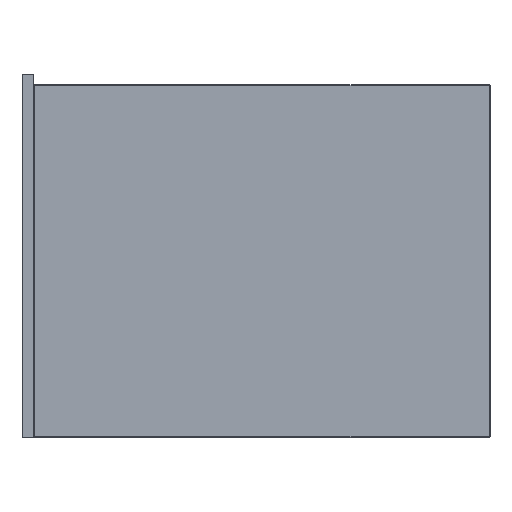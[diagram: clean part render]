
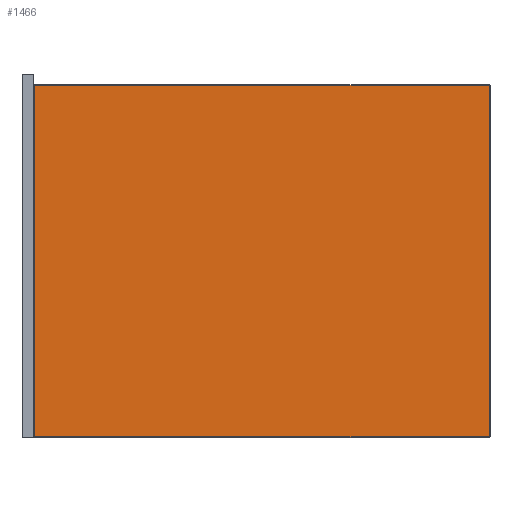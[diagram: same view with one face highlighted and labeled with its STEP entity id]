
A CAD part, left-side view. The second image highlights one B-rep face of the part: STEP entity #1466.
In plain terms, the highlighted planar face has unit normal (-1, 0, 0) as drawn and (0, 0, -1) by its records, which use the part's own axes.
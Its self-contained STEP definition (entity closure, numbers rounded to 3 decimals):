
#39 = VECTOR ( 'NONE', #1820, 1000. ) ;
#78 = CARTESIAN_POINT ( 'NONE',  ( 225., -291., 0. ) ) ;
#402 = CARTESIAN_POINT ( 'NONE',  ( 0., 0., 0. ) ) ;
#535 = DIRECTION ( 'NONE',  ( 0., -1., 0. ) ) ;
#629 = LINE ( 'NONE', #660, #2457 ) ;
#660 = CARTESIAN_POINT ( 'NONE',  ( 226., 291., 0. ) ) ;
#705 = PLANE ( 'NONE',  #1934 ) ;
#749 = VECTOR ( 'NONE', #535, 1000. ) ;
#900 = ORIENTED_EDGE ( 'NONE', *, *, #2039, .T. ) ;
#962 = VERTEX_POINT ( 'NONE', #2151 ) ;
#975 = FACE_OUTER_BOUND ( 'NONE', #2573, .T. ) ;
#1095 = VECTOR ( 'NONE', #2252, 1000. ) ;
#1103 = LINE ( 'NONE', #2193, #1095 ) ;
#1278 = VERTEX_POINT ( 'NONE', #3100 ) ;
#1321 = ORIENTED_EDGE ( 'NONE', *, *, #2363, .T. ) ;
#1466 = ADVANCED_FACE ( 'NONE', ( #975 ), #705, .T. ) ;
#1552 = LINE ( 'NONE', #1839, #39 ) ;
#1676 = LINE ( 'NONE', #1932, #749 ) ;
#1731 = EDGE_CURVE ( 'NONE', #2956, #3419, #1103, .T. ) ;
#1784 = ORIENTED_EDGE ( 'NONE', *, *, #1731, .T. ) ;
#1820 = DIRECTION ( 'NONE',  ( 0., 1., 0. ) ) ;
#1839 = CARTESIAN_POINT ( 'NONE',  ( -225., 292., 0. ) ) ;
#1859 = ORIENTED_EDGE ( 'NONE', *, *, #3265, .T. ) ;
#1932 = CARTESIAN_POINT ( 'NONE',  ( 225., -292., 0. ) ) ;
#1934 = AXIS2_PLACEMENT_3D ( 'NONE', #402, #2884, #3407 ) ;
#2039 = EDGE_CURVE ( 'NONE', #962, #2956, #1676, .T. ) ;
#2108 = CARTESIAN_POINT ( 'NONE',  ( -225., -291., 0. ) ) ;
#2151 = CARTESIAN_POINT ( 'NONE',  ( 225., 291., 0. ) ) ;
#2193 = CARTESIAN_POINT ( 'NONE',  ( -226., -291., 0. ) ) ;
#2252 = DIRECTION ( 'NONE',  ( -1., 0., 0. ) ) ;
#2363 = EDGE_CURVE ( 'NONE', #1278, #962, #629, .T. ) ;
#2457 = VECTOR ( 'NONE', #3352, 1000. ) ;
#2573 = EDGE_LOOP ( 'NONE', ( #1859, #1321, #900, #1784 ) ) ;
#2884 = DIRECTION ( 'NONE',  ( 0., 0., -1. ) ) ;
#2956 = VERTEX_POINT ( 'NONE', #78 ) ;
#3100 = CARTESIAN_POINT ( 'NONE',  ( -225., 291., 0. ) ) ;
#3265 = EDGE_CURVE ( 'NONE', #3419, #1278, #1552, .T. ) ;
#3352 = DIRECTION ( 'NONE',  ( 1., 0., 0. ) ) ;
#3407 = DIRECTION ( 'NONE',  ( -1., 0., 0. ) ) ;
#3419 = VERTEX_POINT ( 'NONE', #2108 ) ;
